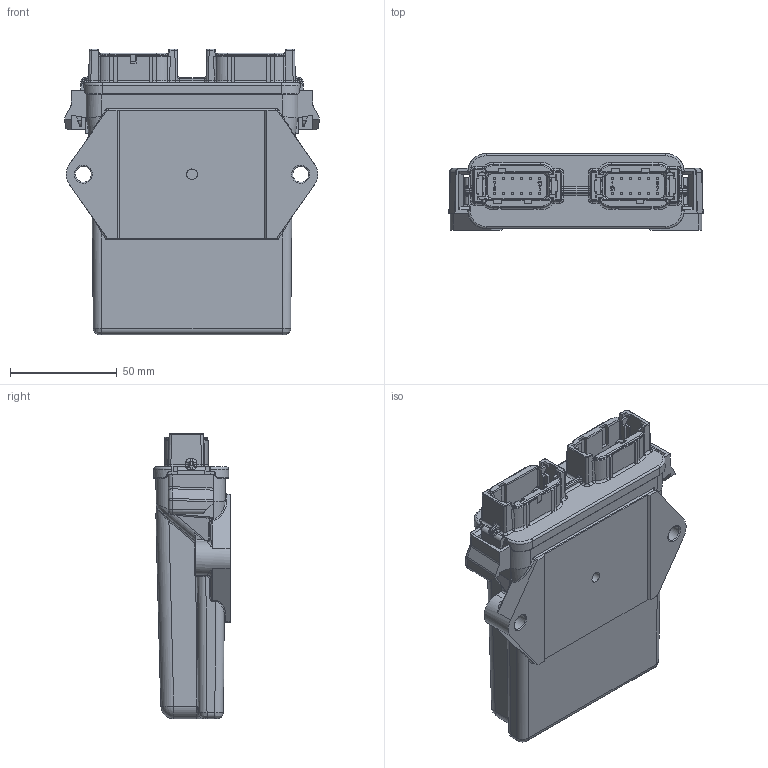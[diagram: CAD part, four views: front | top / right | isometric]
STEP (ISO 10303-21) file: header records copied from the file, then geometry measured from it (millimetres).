
FILE_DESCRIPTION(/* description */ (''),/* implementation_level */ '2;1');
FILE_NAME(/* name */ 'Receiver_Customer_Model.step',/* time_stamp */ '2026-05-29T11:19:38-04:00',/* author */ (''),/* organization */ (''),/* preprocessor_version */ 'ST-DEVELOPER v20.1',/* originating_system */ 'Autodesk Translation Framework v15.8.0.0',/* authorisation */ '');
FILE_SCHEMA (('AUTOMOTIVE_DESIGN { 1 0 10303 214 3 1 1 }'));
Products named in the file (3): Receiver_Customer_Model; Enclosure; Header
Assembly tree (2 placements, depth 2):
  Receiver_Customer_Model
    Enclosure
    Header
Bounding box: 118.78 x 35.73 x 133.45 mm (x, y, z)
Volume: 154680.3 mm3; surface area: 89274.3 mm2
Topology: 2 solids, 2 shells, 1950 faces, 5024 edges, 3125 vertices
Faces by surface type: plane 953, cylinder 619, torus 158, bspline 154, sphere 42, cone 24
Full cylindrical faces by diameter (mm): 1.003 x84, 5.004 x1, 7.391 x2
Entity records: 75912 total; most frequent: CARTESIAN_POINT 28239, ORIENTED_EDGE 10048, DIRECTION 9909, EDGE_CURVE 5024, AXIS2_PLACEMENT_3D 3385, LINE 3139, VECTOR 3139, VERTEX_POINT 3125
